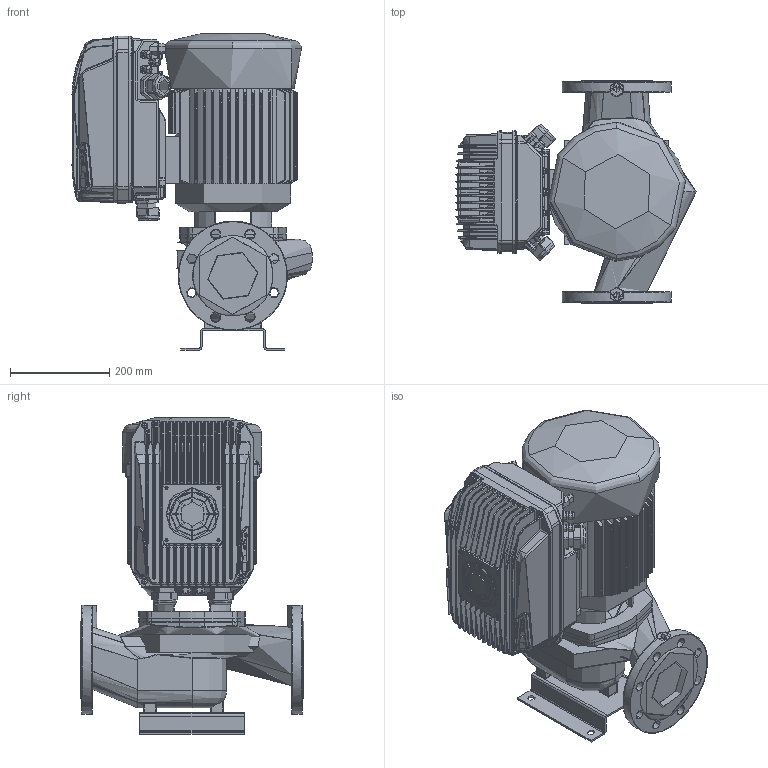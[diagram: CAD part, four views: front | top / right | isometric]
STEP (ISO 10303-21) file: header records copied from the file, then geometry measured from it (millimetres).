
FILE_DESCRIPTION(('STEP AP214'),'1');
FILE_NAME('export.stp','2022-09-07T07:07:11',(' '),(' '),'Spatial InterOp 3D',' ',' ');
FILE_SCHEMA(('AUTOMOTIVE_DESIGN { 1 0 10303 214 1 1 1 1 }'));
Length unit declared in the file: millimetre
Products named in the file (11): V_MOKN132; RU_OKN_132; TSUOJA_OKN_132_133; KYTKOTELO_OKN_100_133; V_Mkp-132_F19; V_EKF19OKN132; W_AL11022MDKP132; Mida_414-418; V_TLL65AB80A1102; V_JALKA35973; V_PPAL1102
Assembly tree (10 placements, depth 4):
  W_AL11022MDKP132
    V_Mkp-132_F19
      V_MOKN132
        RU_OKN_132
        TSUOJA_OKN_132_133
        KYTKOTELO_OKN_100_133
      V_EKF19OKN132
    Mida_414-418
    V_TLL65AB80A1102
    V_JALKA35973
    V_PPAL1102
Bounding box: 484.7 x 450 x 637.5 mm (x, y, z)
Topology: 55 solids, 60 shells, 6257 faces, 15874 edges, 9641 vertices
Faces by surface type: cylinder 2316, plane 1990, bspline 1197, cone 444, torus 257, sphere 45, offset 8
Entity records: 513506 total; most frequent: CARTESIAN_POINT 318125, ORIENTED_EDGE 31174, DIRECTION 24399, EDGE_CURVE 15587, VERTEX_POINT 9638, AXIS2_PLACEMENT_3D 8944, STYLED_ITEM 7939, PRESENTATION_STYLE_ASSIGNMENT 7939
